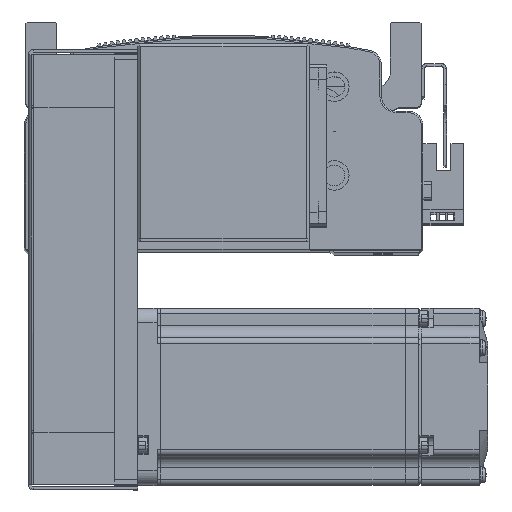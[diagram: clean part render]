
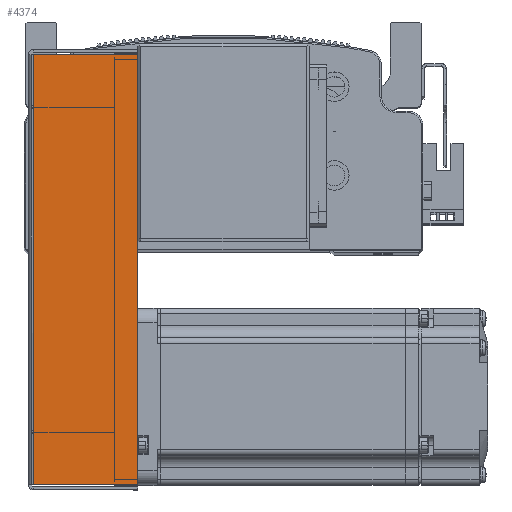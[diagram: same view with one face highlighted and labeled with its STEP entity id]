
A CAD part, top view. The second image highlights one B-rep face of the part: STEP entity #4374.
In plain terms, the highlighted planar face has unit normal (0, 0, 1) as drawn and (0, 0, -1) by its records, which use the part's own axes.
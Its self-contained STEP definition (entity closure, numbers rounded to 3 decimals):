
#4374 = ADVANCED_FACE ( 'NONE', ( #45897 ), #49174, .F. ) ;
#12917 = VERTEX_POINT ( 'NONE', #62206 ) ;
#12931 = VERTEX_POINT ( 'NONE', #62276 ) ;
#12940 = VERTEX_POINT ( 'NONE', #62260 ) ;
#12959 = VERTEX_POINT ( 'NONE', #62263 ) ;
#14588 = EDGE_CURVE ( 'NONE', #12940, #12959, #65329, .T. ) ;
#14613 = EDGE_CURVE ( 'NONE', #12917, #12940, #65359, .T. ) ;
#14642 = EDGE_CURVE ( 'NONE', #12931, #12959, #65317, .T. ) ;
#14685 = EDGE_CURVE ( 'NONE', #12917, #12931, #65393, .T. ) ;
#20002 = ORIENTED_EDGE ( 'NONE', *, *, #14588, .T. ) ;
#20024 = ORIENTED_EDGE ( 'NONE', *, *, #14685, .F. ) ;
#20051 = ORIENTED_EDGE ( 'NONE', *, *, #14642, .F. ) ;
#20062 = ORIENTED_EDGE ( 'NONE', *, *, #14613, .T. ) ;
#20946 = EDGE_LOOP ( 'NONE', ( #20024, #20062, #20002, #20051 ) ) ;
#29057 = AXIS2_PLACEMENT_3D ( 'NONE', #49147, #49190, #49143 ) ;
#45897 = FACE_OUTER_BOUND ( 'NONE', #20946, .T. ) ;
#49143 = DIRECTION ( 'NONE',  ( 0., -1., 0. ) ) ;
#49147 = CARTESIAN_POINT ( 'NONE',  ( 0., 0., -34.5 ) ) ;
#49174 = PLANE ( 'NONE',  #29057 ) ;
#49190 = DIRECTION ( 'NONE',  ( 0., 0., 1. ) ) ;
#62206 = CARTESIAN_POINT ( 'NONE',  ( -72.793, 0.737, -34.5 ) ) ;
#62260 = CARTESIAN_POINT ( 'NONE',  ( -72.793, 36., -34.5 ) ) ;
#62263 = CARTESIAN_POINT ( 'NONE',  ( 72.793, 36., -34.5 ) ) ;
#62276 = CARTESIAN_POINT ( 'NONE',  ( 72.793, 0.737, -34.5 ) ) ;
#65317 = LINE ( 'NONE', #68080, #65357 ) ;
#65321 = VECTOR ( 'NONE', #68038, 1000. ) ;
#65329 = LINE ( 'NONE', #68032, #65372 ) ;
#65357 = VECTOR ( 'NONE', #68089, 1000. ) ;
#65359 = LINE ( 'NONE', #68026, #65321 ) ;
#65372 = VECTOR ( 'NONE', #68013, 1000. ) ;
#65393 = LINE ( 'NONE', #68130, #65394 ) ;
#65394 = VECTOR ( 'NONE', #68166, 1000. ) ;
#68013 = DIRECTION ( 'NONE',  ( 1., 0., 0. ) ) ;
#68026 = CARTESIAN_POINT ( 'NONE',  ( -72.793, 0., -34.5 ) ) ;
#68032 = CARTESIAN_POINT ( 'NONE',  ( 0., 36., -34.5 ) ) ;
#68038 = DIRECTION ( 'NONE',  ( 0., 1., 0. ) ) ;
#68080 = CARTESIAN_POINT ( 'NONE',  ( 72.793, 0., -34.5 ) ) ;
#68089 = DIRECTION ( 'NONE',  ( 0., 1., 0. ) ) ;
#68130 = CARTESIAN_POINT ( 'NONE',  ( 74.5, 0.737, -34.5 ) ) ;
#68166 = DIRECTION ( 'NONE',  ( 1., 0., 0. ) ) ;
